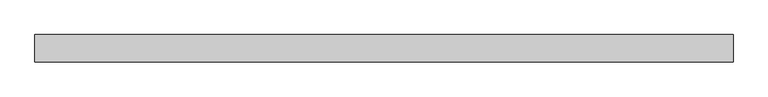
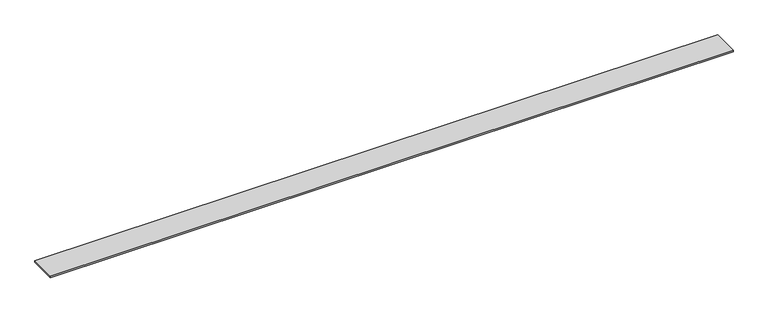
"""IFC4 building model written with IfcOpenShell, lengths in millimetres: furniture geometry, Geiger_GeigerOneCasegoods_WallTopTrimSingleSidedWall : 66Wx2.625Dx0.125H."""

from ifc_helpers import new_model, si_unit, origin, origin_with_axes, place, context, project, spatial, polyline, outline, extrude, source, transform, mapped, element, save


def furniture_a181dc65(model_context):
    return source(origin(), model_context, "Body", "SweptSolid", [
        extrude(outline(polyline([(1676.4, 33.0), (1676.4, -33.0), (0.0, -33.0), (0.0, 33.0), (1676.4, 33.0)])), origin_with_axes(), (0.0, 0.0, 1.0), 3.2004),
    ])


if __name__ == "__main__":
    model = new_model("IFC4")
    model_context = context("Model", 3, world=origin())
    ifc_project = project(units=[si_unit("LENGTHUNIT", "METRE", prefix="MILLI")], contexts=[model_context])
    site = spatial("IfcSite", under=ifc_project)
    building = spatial("IfcBuilding", under=site)
    placement = place(None, origin())
    furniture_shape = furniture_a181dc65(model_context)
    element("IfcFurniture", 1, ObjectType="Geiger_GeigerOneCasegoods_WallTopTrimSingleSidedWall : 66Wx2.625Dx0.125H", at=placement, inside=building, context=model_context, shape_type="MappedRepresentation", body=[
        mapped(furniture_shape, transform((0.0, 0.0, 0.0), x_axis=(1.0, 0.0, 0.0), y_axis=(0.0, 1.0, 0.0), z_axis=(0.0, 0.0, 1.0))),
    ])
    save(model, "model.ifc")
